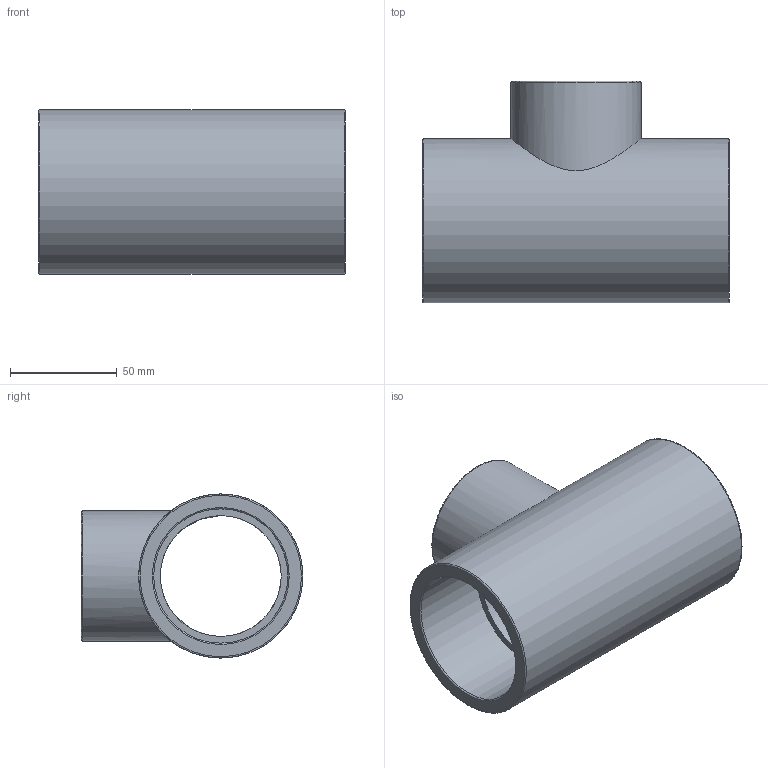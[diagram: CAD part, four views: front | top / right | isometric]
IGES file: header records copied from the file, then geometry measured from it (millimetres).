
Global section: file name: 051400063050.ipt; native system: Autodesk Inventor 2015; preprocessor: unknown; author: KIM; date: 20171207.165226; units: millimetre
Bounding box: 144 x 104 x 77 mm (x, y, z)
Volume: 275894.6 mm3; surface area: 75255.4 mm2
Topology: 1 solids, 1 shells, 19 faces, 58 edges, 44 vertices
Faces by surface type: revolution 11, plane 6, cylinder 2
Full cylindrical faces by diameter (mm): 61 x1, 77 x1
